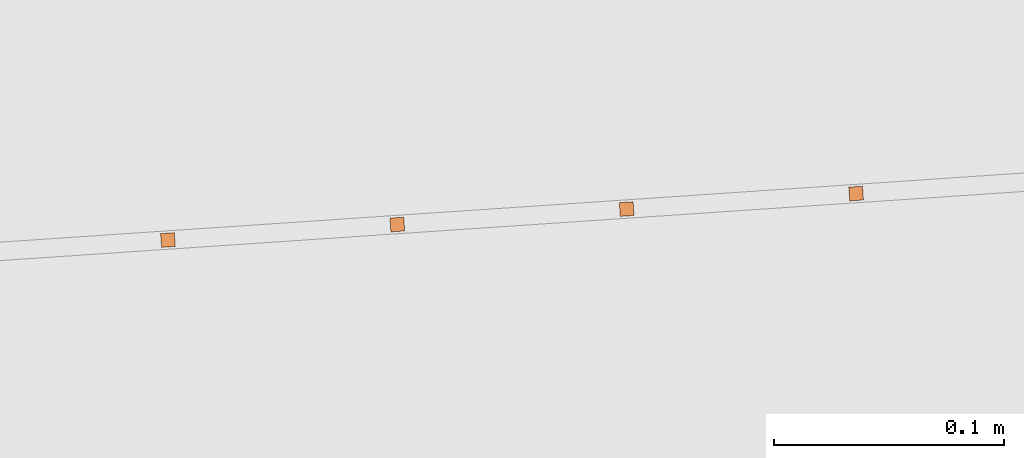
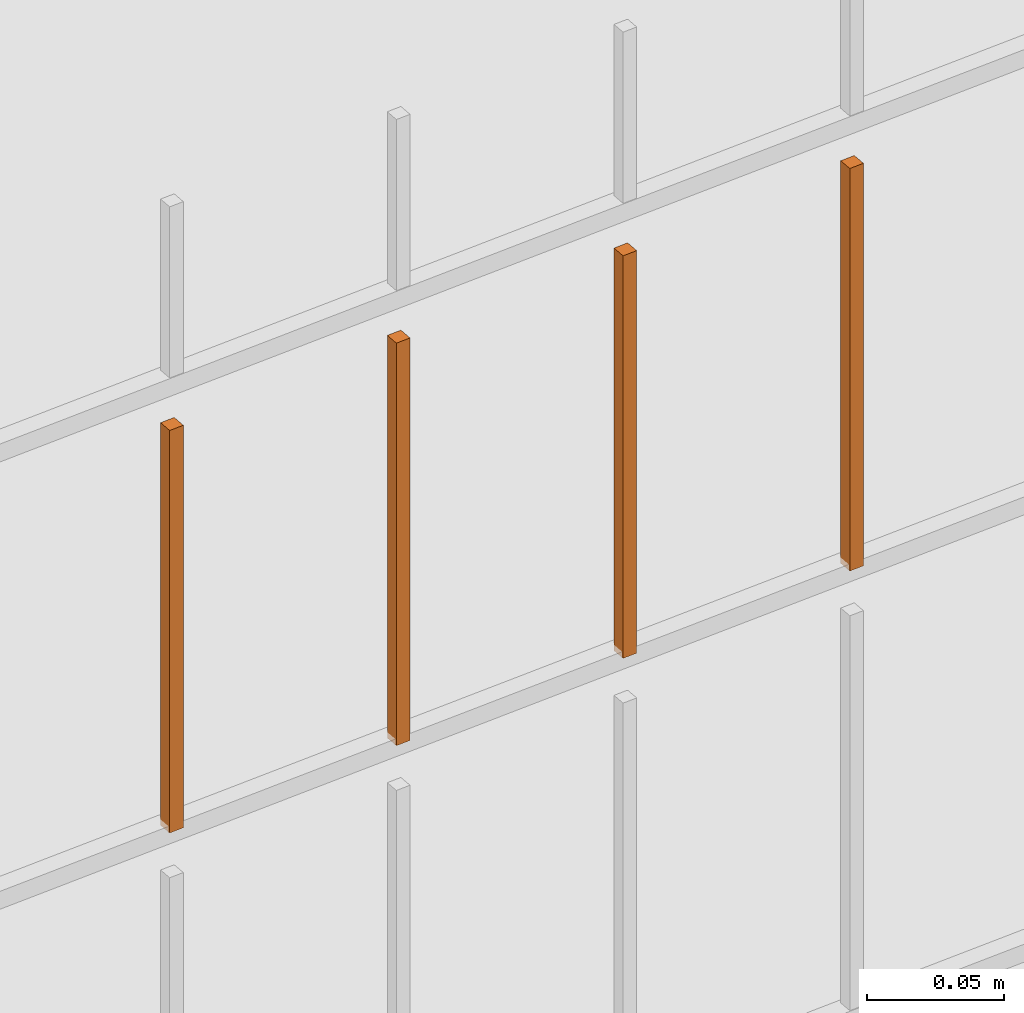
# One storey, part 90 of 1809: 4 proxies, 1 element without a shape of its own.
"""IFC2X3 building model written with IfcOpenShell, lengths in millimetres."""

from ifc_helpers import new_model, entity, si_unit, converted_unit, derived_unit, money_unit, direction, frame, origin_with_axes, place, context, subcontext, project, spatial, faceted_brep, source, transform, mapped, material, type_object, element, aggregate, save


model = new_model("IFC2X3")

# Units and contexts
model_context = context("Model", 3, precision=0.01, world=origin_with_axes(), true_north=direction((0.0, 1.0)))
body_context = subcontext(model_context, "Body", "Model", "MODEL_VIEW")
ifc_project = project(units=[si_unit("LENGTHUNIT", "METRE", prefix="MILLI"), si_unit("AREAUNIT", "SQUARE_METRE"), si_unit("VOLUMEUNIT", "CUBIC_METRE"), converted_unit("PLANEANGLEUNIT", "DEGREE", entity("IfcPlaneAngleMeasure", 0.0174532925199), si_unit("PLANEANGLEUNIT", "RADIAN"), dimensions=[0, 0, 0, 0, 0, 0, 0]), si_unit("SOLIDANGLEUNIT", "STERADIAN"), money_unit("EUR"), converted_unit("TIMEUNIT", "Year", entity("IfcTimeMeasure", 31556926.0), si_unit("TIMEUNIT", "SECOND"), dimensions=[0, 0, 1, 0, 0, 0, 0]), si_unit("MASSUNIT", "GRAM", prefix="KILO"), si_unit("THERMODYNAMICTEMPERATUREUNIT", "DEGREE_CELSIUS"), si_unit("LUMINOUSINTENSITYUNIT", "LUMEN"), si_unit("ENERGYUNIT", "JOULE", prefix="MEGA"), derived_unit("THERMALCONDUCTANCEUNIT", [(si_unit("POWERUNIT", "WATT"), 1), (si_unit("LENGTHUNIT", "METRE"), -1), (si_unit("THERMODYNAMICTEMPERATUREUNIT", "KELVIN"), -1)]), derived_unit("SPECIFICHEATCAPACITYUNIT", [(si_unit("ENERGYUNIT", "JOULE"), 1), (si_unit("MASSUNIT", "GRAM", prefix="KILO"), -1), (si_unit("THERMODYNAMICTEMPERATUREUNIT", "KELVIN"), -1)]), derived_unit("MASSDENSITYUNIT", [(si_unit("MASSUNIT", "GRAM", prefix="KILO"), 1), (si_unit("VOLUMEUNIT", "CUBIC_METRE"), -1)])], contexts=[model_context])

# Site, building, storey
site_placement = place(None, origin_with_axes())
site = spatial("IfcSite", under=ifc_project, at=site_placement, Name="Politse- ja Piirivalveameti ning Päästeameti ühishoone", CompositionType="ELEMENT")
building_placement = place(site_placement, origin_with_axes())
building = spatial("IfcBuilding", under=site, at=building_placement, Name="Politse- ja Piirivalveameti ning Päästeameti ühishoone", CompositionType="ELEMENT")
storey_placement = place(building_placement, origin_with_axes())
storey = spatial("IfcBuildingStorey", under=building, at=storey_placement, Name="Esimene korrus", CompositionType="ELEMENT", Elevation=0.0)

# Proxies
building_element_proxy_type_1 = type_object("IfcBuildingElementProxyType", Name="Railing Type", PredefinedType="NOTDEFINED")
proxy_1_placement = place(storey_placement, frame((89252.001212, -29183.4766571, 203.661247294), z_axis=(0.0, 0.0, 1.0), x_axis=(1.0, 0.0, 0.0)))
proxy_1 = element("IfcBuildingElementProxy", 1, at=proxy_1_placement, inside=storey, type_object=building_element_proxy_type_1, Name="PIIRDEAED")
ifc_material = material(Name="ET-03_Raud")
building_element_proxy_type_2 = type_object("IfcBuildingElementProxyType", Name="IfcBuildingElementProxy", PredefinedType="NOTDEFINED")
shared_shape_1 = source(origin_with_axes(), body_context, "Body", "Brep", [
    faceted_brep([(3.0, 3.0, -0.000752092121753), (-3.0, 3.0, -0.000752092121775), (-3.0, 3.0, 179.99926046), (3.0, 3.0, 179.99926046), (3.0, -3.0, 0.000752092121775), (-3.0, -3.0, 0.000752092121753), (-3.0, -3.0, 180.000764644), (3.0, -3.0, 180.000764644)], [[[0, 1, 2, 3]], [[0, 4, 5, 1]], [[1, 5, 6, 2]], [[3, 2, 6, 7]], [[4, 0, 3, 7]], [[5, 4, 7, 6]]]),
])
proxy_2_placement = place(proxy_1_placement, frame((-99998.8256245, -24052.3180506, 1802.10781804), z_axis=(0.0, 0.0, 1.0), x_axis=(1.0, 0.0, 0.0)))
proxy_2 = element("IfcBuildingElementProxy", 2, at=proxy_2_placement, type_object=building_element_proxy_type_2, material=ifc_material, Name="BALUSTER - 001", context=body_context, shape_type="MappedRepresentation", body=[
    mapped(shared_shape_1, transform((0.0, 0.0, 0.0), x_axis=(-0.0673926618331, 0.997726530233, 0.0), y_axis=(-0.997726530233, -0.0673926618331, 0.0), z_axis=(0.0, 0.0, 1.0))),
])
shared_shape_2 = source(origin_with_axes(), body_context, "Body", "Brep", [
    faceted_brep([(3.0, 3.0, -0.000752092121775), (-3.0, 3.0, -0.000752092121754), (-3.0, 3.0, 179.99926046), (3.0, 3.0, 179.99926046), (3.0, -3.0, 0.000752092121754), (-3.0, -3.0, 0.000752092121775), (-3.0, -3.0, 180.000764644), (3.0, -3.0, 180.000764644)], [[[0, 1, 2, 3]], [[0, 4, 5, 1]], [[1, 5, 6, 2]], [[3, 2, 6, 7]], [[4, 0, 3, 7]], [[5, 4, 7, 6]]]),
])
proxy_3_placement = place(proxy_1_placement, frame((-99799.2803185, -24038.8395182, 1802.15795751), z_axis=(0.0, 0.0, 1.0), x_axis=(1.0, 0.0, 0.0)))
proxy_3 = element("IfcBuildingElementProxy", 3, at=proxy_3_placement, type_object=building_element_proxy_type_2, material=ifc_material, Name="BALUSTER - 001", context=body_context, shape_type="MappedRepresentation", body=[
    mapped(shared_shape_2, transform((0.0, 0.0, 0.0), x_axis=(-0.0673926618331, 0.997726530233, 0.0), y_axis=(-0.997726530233, -0.0673926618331, 0.0), z_axis=(0.0, 0.0, 1.0))),
])
proxy_4_placement = place(proxy_1_placement, frame((-99899.0529715, -24045.5787844, 1802.13288778), z_axis=(0.0, 0.0, 1.0), x_axis=(1.0, 0.0, 0.0)))
proxy_4 = element("IfcBuildingElementProxy", 4, at=proxy_4_placement, type_object=building_element_proxy_type_2, material=ifc_material, Name="BALUSTER - 001", context=body_context, shape_type="MappedRepresentation", body=[
    mapped(shared_shape_2, transform((0.0, 0.0, 0.0), x_axis=(-0.0673926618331, 0.997726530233, 0.0), y_axis=(-0.997726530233, -0.0673926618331, 0.0), z_axis=(0.0, 0.0, 1.0))),
])
shared_shape_3 = source(origin_with_axes(), body_context, "Body", "Brep", [
    faceted_brep([(3.0, 3.0, -0.000752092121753), (-3.0, 3.0, -0.000752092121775), (-3.0, 3.0, 179.99926046), (3.0, 3.0, 179.99926046), (3.0, -3.0, 0.000752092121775), (-3.0, -3.0, 0.000752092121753), (-3.0, -3.0, 180.000764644), (3.0, -3.0, 180.000764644)], [[[0, 1, 2, 3]], [[0, 4, 5, 1]], [[1, 5, 6, 2]], [[3, 2, 6, 7]], [[4, 0, 3, 7]], [[5, 4, 7, 6]]]),
])
proxy_5_placement = place(proxy_1_placement, frame((-100098.598278, -24059.0573168, 1802.0827483), z_axis=(0.0, 0.0, 1.0), x_axis=(1.0, 0.0, 0.0)))
proxy_5 = element("IfcBuildingElementProxy", 5, at=proxy_5_placement, type_object=building_element_proxy_type_2, material=ifc_material, Name="BALUSTER - 001", context=body_context, shape_type="MappedRepresentation", body=[
    mapped(shared_shape_3, transform((0.0, 0.0, 0.0), x_axis=(-0.0673926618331, 0.997726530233, 0.0), y_axis=(-0.997726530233, -0.0673926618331, 0.0), z_axis=(0.0, 0.0, 1.0))),
])
aggregate(proxy_1, [proxy_3, proxy_4, proxy_2, proxy_5])

save(model, "model.ifc")
